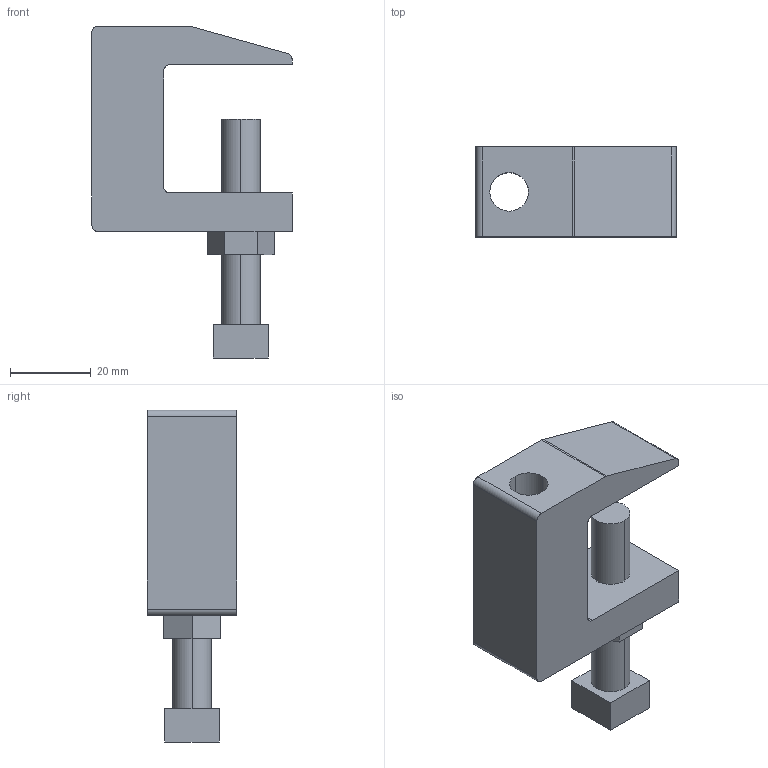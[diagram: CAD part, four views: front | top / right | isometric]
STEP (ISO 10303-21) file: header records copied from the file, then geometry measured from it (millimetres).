
FILE_DESCRIPTION(('TurboCAD Mac Pro'),'Build 980');
FILE_NAME('P2899-37.stp',' ',(''),(''),'ACIS Interop','IMSI','TurboCAD Mac Pro BY IMSI, INCORPORATED');
FILE_SCHEMA(('automotive_design'));
Length unit declared in the file: inch
Products named in the file (3): 1; 2; 3
Bounding box: 49.52 x 22.23 x 82.06 mm (x, y, z)
Volume: 32922.7 mm3; surface area: 13014.9 mm2
Topology: 3 solids, 3 shells, 48 faces, 123 edges, 82 vertices
Faces by surface type: plane 26, bspline 21, cylinder 1
Entity records: 2021 total; most frequent: CARTESIAN_POINT 529, ORIENTED_EDGE 246, DIRECTION 143, EDGE_CURVE 123, VERTEX_POINT 82, LINE 79, VECTOR 79, EDGE_LOOP 55
